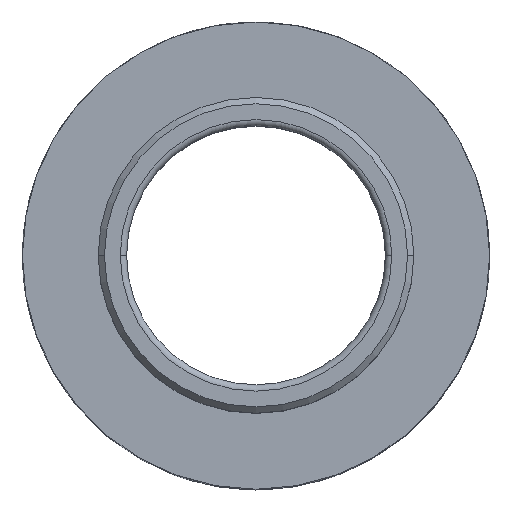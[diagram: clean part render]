
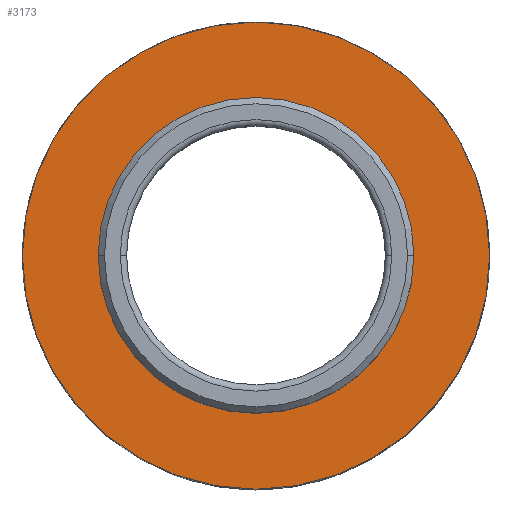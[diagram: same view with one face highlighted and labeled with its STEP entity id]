
A CAD part, top view. The second image highlights one B-rep face of the part: STEP entity #3173.
In plain terms, the highlighted planar face has unit normal (0, 0, 1).
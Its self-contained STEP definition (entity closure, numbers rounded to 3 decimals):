
#1805 = CARTESIAN_POINT ( 'NONE',  ( 0., 0., 0. ) ) ;
#1828 = DIRECTION ( 'NONE',  ( 0., 0., 1. ) ) ;
#1830 = AXIS2_PLACEMENT_3D ( 'NONE', #1805, #1828, #1842 ) ;
#1831 = CIRCLE ( 'NONE', #1830, 11.75 ) ;
#1842 = DIRECTION ( 'NONE',  ( 1., 0., 0. ) ) ;
#1928 = CARTESIAN_POINT ( 'NONE',  ( -11.75, 0., 0. ) ) ;
#1967 = CARTESIAN_POINT ( 'NONE',  ( 11.75, 0., 0. ) ) ;
#2201 = CARTESIAN_POINT ( 'NONE',  ( 18.5, 0., 0. ) ) ;
#2209 = DIRECTION ( 'NONE',  ( -1., 0., 0. ) ) ;
#2210 = DIRECTION ( 'NONE',  ( 0., 0., -1. ) ) ;
#2211 = CARTESIAN_POINT ( 'NONE',  ( 0., 0., 0. ) ) ;
#2212 = AXIS2_PLACEMENT_3D ( 'NONE', #2211, #2210, #2209 ) ;
#2213 = CIRCLE ( 'NONE', #2212, 18.5 ) ;
#2251 = CARTESIAN_POINT ( 'NONE',  ( -18.5, 0., 0. ) ) ;
#2345 = AXIS2_PLACEMENT_3D ( 'NONE', #2364, #2363, #2362 ) ;
#2348 = AXIS2_PLACEMENT_3D ( 'NONE', #2455, #2454, #2453 ) ;
#2349 = DIRECTION ( 'NONE',  ( -1., 0., 0. ) ) ;
#2350 = DIRECTION ( 'NONE',  ( 0., 0., -1. ) ) ;
#2351 = CARTESIAN_POINT ( 'NONE',  ( 0., 0., 0. ) ) ;
#2362 = DIRECTION ( 'NONE',  ( -1., 0., 0. ) ) ;
#2363 = DIRECTION ( 'NONE',  ( 0., 0., -1. ) ) ;
#2364 = CARTESIAN_POINT ( 'NONE',  ( 0., 0., 0. ) ) ;
#2395 = CIRCLE ( 'NONE', #2348, 11.75 ) ;
#2403 = CIRCLE ( 'NONE', #2406, 18.5 ) ;
#2406 = AXIS2_PLACEMENT_3D ( 'NONE', #2351, #2350, #2349 ) ;
#2412 = FACE_BOUND ( 'NONE', #3177, .T. ) ;
#2452 = PLANE ( 'NONE',  #2345 ) ;
#2453 = DIRECTION ( 'NONE',  ( 1., 0., 0. ) ) ;
#2454 = DIRECTION ( 'NONE',  ( 0., 0., 1. ) ) ;
#2455 = CARTESIAN_POINT ( 'NONE',  ( 0., 0., 0. ) ) ;
#2457 = FACE_OUTER_BOUND ( 'NONE', #3189, .T. ) ;
#2914 = VERTEX_POINT ( 'NONE', #1928 ) ;
#2951 = VERTEX_POINT ( 'NONE', #1967 ) ;
#2953 = EDGE_CURVE ( 'NONE', #2951, #2914, #1831, .T. ) ;
#3061 = VERTEX_POINT ( 'NONE', #2251 ) ;
#3107 = EDGE_CURVE ( 'NONE', #3061, #3113, #2213, .T. ) ;
#3113 = VERTEX_POINT ( 'NONE', #2201 ) ;
#3153 = ORIENTED_EDGE ( 'NONE', *, *, #2953, .F. ) ;
#3164 = EDGE_CURVE ( 'NONE', #3113, #3061, #2403, .T. ) ;
#3169 = EDGE_CURVE ( 'NONE', #2914, #2951, #2395, .T. ) ;
#3172 = ORIENTED_EDGE ( 'NONE', *, *, #3164, .F. ) ;
#3173 = ADVANCED_FACE ( 'NONE', ( #2457, #2412 ), #2452, .F. ) ;
#3176 = ORIENTED_EDGE ( 'NONE', *, *, #3169, .F. ) ;
#3177 = EDGE_LOOP ( 'NONE', ( #3153, #3176 ) ) ;
#3179 = ORIENTED_EDGE ( 'NONE', *, *, #3107, .F. ) ;
#3189 = EDGE_LOOP ( 'NONE', ( #3172, #3179 ) ) ;
